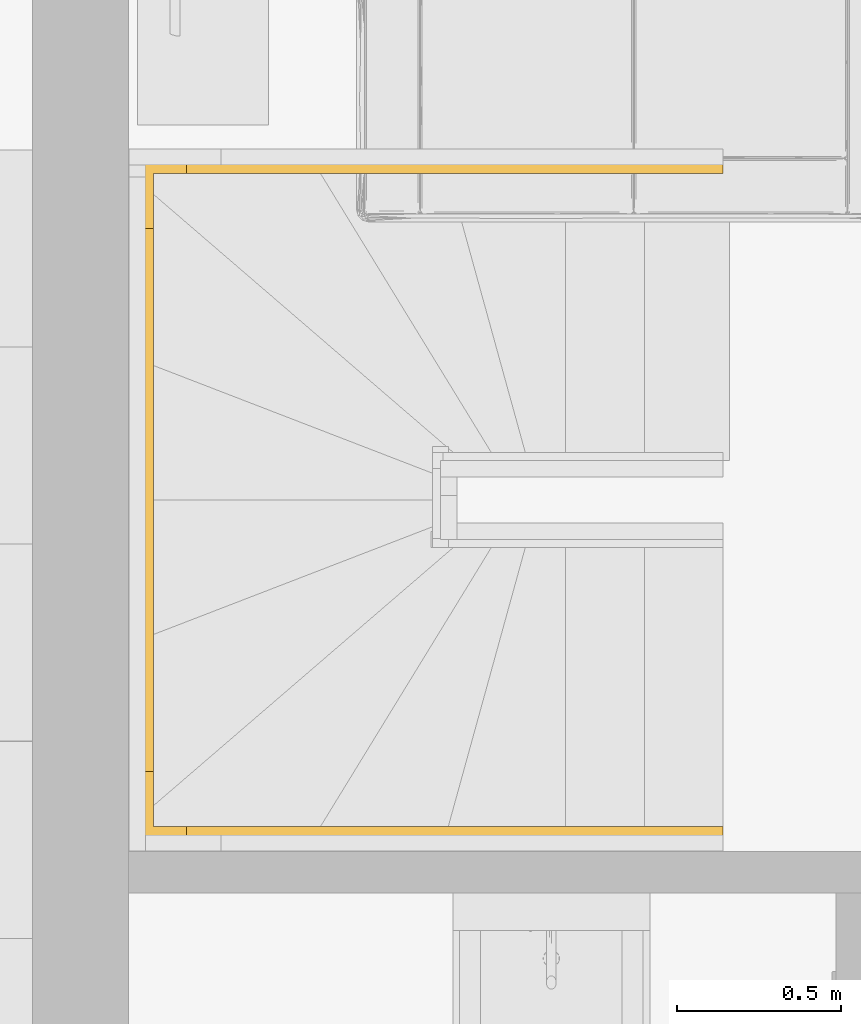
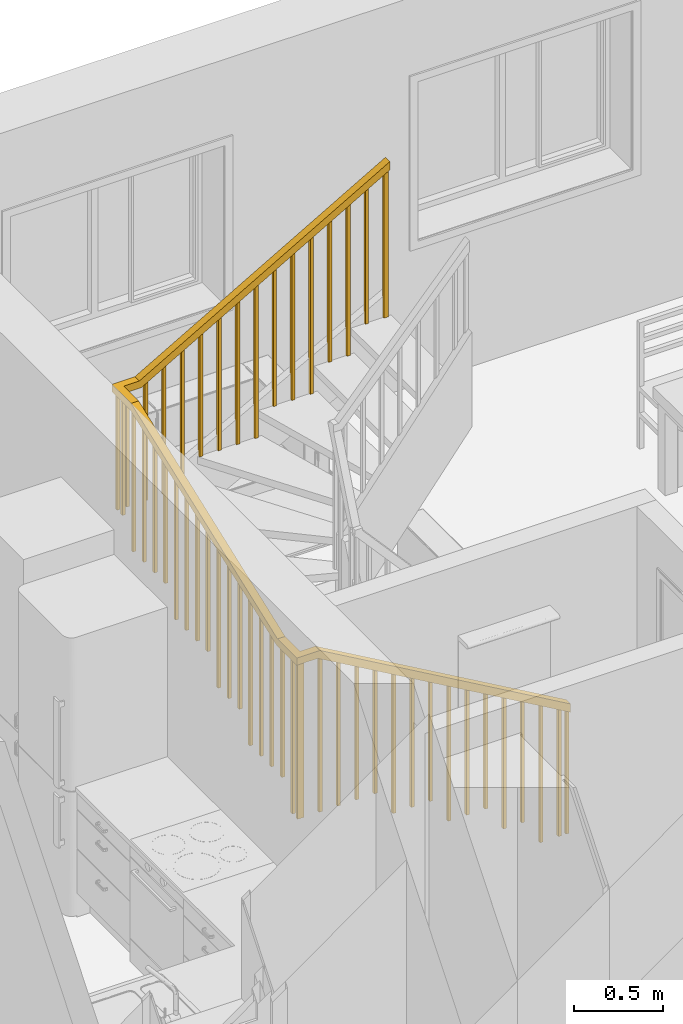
# One storey, part 31 of 65: 1 railing, 1 element without a shape of its own.
"""IFC2X3 building model written with IfcOpenShell, lengths in millimetres."""

from ifc_helpers import new_model, entity, si_unit, converted_unit, direction, frame, origin, place, context, subcontext, project, spatial, faceted_brep, material, type_object, element, aggregate, save


model = new_model("IFC2X3")

# Units and contexts
model_context = context("Model", 3, precision=0.01, world=origin(), true_north=direction((0.0, 1.0)))
body_context = subcontext(model_context, "Body", "Model", "MODEL_VIEW")
ifc_project = project(units=[si_unit("LENGTHUNIT", "METRE", prefix="MILLI"), si_unit("AREAUNIT", "SQUARE_METRE"), si_unit("VOLUMEUNIT", "CUBIC_METRE"), converted_unit("PLANEANGLEUNIT", "DEGREE", entity("IfcPlaneAngleMeasure", 0.017453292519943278), si_unit("PLANEANGLEUNIT", "RADIAN"), dimensions=[0, 0, 0, 0, 0, 0, 0])], contexts=[model_context])

# Site, building, storey
site_placement = place(None, origin())
site = spatial("IfcSite", under=ifc_project, at=site_placement, Name="Default", CompositionType="ELEMENT")
building_placement = place(site_placement, origin())
building = spatial("IfcBuilding", under=site, at=building_placement, CompositionType="ELEMENT")
storey_placement = place(building_placement, origin())
storey = spatial("IfcBuildingStorey", under=building, at=storey_placement, Name="Et. 1", CompositionType="ELEMENT", Elevation=0.0)

# Stair, railing
type_product = type_object("IfcTypeProduct", Name="Assembled Stair:Tretrapp - Åpne trinn m/ vanger")
stair_placement = place(storey_placement, origin())
stair = element("IfcStair", 1, at=stair_placement, inside=storey, type_object=type_product, Name="Assembled Stair:Stair", ShapeType="NOTDEFINED")
ifc_material = material(Name="Metall - Malt - MØRK GRÅ MATT")
railing_type = type_object("IfcRailingType", Name="Railing:900mm", PredefinedType="NOTDEFINED")
railing_placement = place(stair_placement, frame((28350.268455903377, 11245.551787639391, 178.73333333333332)))
railing = element("IfcRailing", 2, at=railing_placement, type_object=railing_type, material=ifc_material, Name="Railing:900mm", PredefinedType="NOTDEFINED", context=body_context, shape_type="Brep", body=[
    faceted_brep([(1755.0, 2054.199999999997, 3334.94499683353), (1755.0, 2074.199999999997, 3334.94499683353), (1755.0, 2074.199999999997, 2323.5333333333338), (1755.0, 2054.199999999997, 2323.5333333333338), (1775.0, 2074.199999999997, 3346.4569725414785), (1775.0, 2074.199999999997, 2323.5333333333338), (1775.0, 2054.199999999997, 3346.4569725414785), (1775.0, 2054.199999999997, 2323.5333333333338)], [[[0, 1, 2, 3]], [[1, 4, 5, 2]], [[4, 6, 7, 5]], [[3, 7, 6, 0]], [[0, 6, 4, 1]], [[2, 5, 7, 3]]]),
    faceted_brep([(1635.0, 2054.199999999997, 3265.8731425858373), (1635.0, 2074.199999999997, 3265.8731425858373), (1635.0, 2074.199999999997, 2323.5333333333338), (1635.0, 2054.199999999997, 2323.5333333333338), (1655.0, 2074.199999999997, 3277.385118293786), (1655.0, 2074.199999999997, 2323.5333333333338), (1655.0, 2054.199999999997, 3277.385118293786), (1655.0, 2054.199999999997, 2323.5333333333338)], [[[0, 1, 2, 3]], [[1, 4, 5, 2]], [[4, 6, 7, 5]], [[3, 7, 6, 0]], [[0, 6, 4, 1]], [[2, 5, 7, 3]]]),
    faceted_brep([(1515.0, 2054.199999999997, 3196.801288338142), (1515.0, 2074.199999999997, 3196.8012883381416), (1515.0, 2074.199999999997, 2144.8), (1515.0, 2054.199999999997, 2144.8000000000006), (1535.0, 2074.199999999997, 3208.313264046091), (1535.0, 2074.199999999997, 2144.8), (1535.0, 2054.199999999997, 3208.313264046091), (1535.0, 2054.199999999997, 2144.8)], [[[0, 1, 2, 3]], [[1, 4, 5, 2]], [[4, 6, 7, 5]], [[3, 7, 6, 0]], [[0, 6, 4, 1]], [[2, 5, 7, 3]]]),
    faceted_brep([(1395.0, 2054.199999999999, 3127.72943409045), (1395.0, 2074.199999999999, 3127.72943409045), (1395.0, 2074.199999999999, 2144.8000000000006), (1395.0, 2054.199999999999, 2144.8000000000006), (1415.0, 2074.199999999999, 3139.241409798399), (1415.0, 2074.199999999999, 2144.8000000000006), (1415.0, 2054.199999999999, 3139.241409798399), (1415.0, 2054.199999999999, 2144.8000000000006)], [[[0, 1, 2, 3]], [[1, 4, 5, 2]], [[4, 6, 7, 5]], [[3, 7, 6, 0]], [[0, 6, 4, 1]], [[2, 5, 7, 3]]]),
    faceted_brep([(1275.0, 2054.199999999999, 3058.6575798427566), (1275.0, 2074.199999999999, 3058.6575798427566), (1275.0, 2074.199999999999, 1966.0666666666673), (1275.0, 2054.199999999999, 1966.0666666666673), (1295.0, 2074.199999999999, 3070.169555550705), (1295.0, 2074.199999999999, 1966.0666666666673), (1295.0, 2054.199999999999, 3070.169555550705), (1295.0, 2054.199999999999, 1966.0666666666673)], [[[0, 1, 2, 3]], [[1, 4, 5, 2]], [[4, 6, 7, 5]], [[3, 7, 6, 0]], [[0, 6, 4, 1]], [[2, 5, 7, 3]]]),
    faceted_brep([(1155.0, 2054.199999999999, 2989.585725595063), (1155.0, 2074.199999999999, 2989.585725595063), (1155.0, 2074.199999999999, 1966.0666666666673), (1155.0, 2054.199999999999, 1966.0666666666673), (1175.0, 2074.199999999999, 3001.097701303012), (1175.0, 2074.199999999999, 1966.0666666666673), (1175.0, 2054.199999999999, 3001.097701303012), (1175.0, 2054.199999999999, 1966.0666666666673)], [[[0, 1, 2, 3]], [[1, 4, 5, 2]], [[4, 6, 7, 5]], [[3, 7, 6, 0]], [[0, 6, 4, 1]], [[2, 5, 7, 3]]]),
    faceted_brep([(1035.0, 2054.199999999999, 2920.5138713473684), (1035.0, 2074.199999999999, 2920.5138713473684), (1035.0, 2074.199999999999, 1966.0666666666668), (1035.0, 2054.199999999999, 1966.0666666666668), (1055.0, 2074.199999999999, 2932.0258470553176), (1055.0, 2074.199999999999, 1966.0666666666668), (1055.0, 2054.199999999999, 2932.0258470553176), (1055.0, 2054.199999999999, 1966.0666666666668)], [[[0, 1, 2, 3]], [[1, 4, 5, 2]], [[4, 6, 7, 5]], [[3, 7, 6, 0]], [[0, 6, 4, 1]], [[2, 5, 7, 3]]]),
    faceted_brep([(915.0, 2054.199999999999, 2851.4420170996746), (915.0, 2074.199999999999, 2851.4420170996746), (915.0, 2074.199999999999, 1787.3333333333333), (915.0, 2054.199999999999, 1787.3333333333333), (935.0, 2074.199999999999, 2862.953992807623), (935.0, 2074.199999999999, 1787.3333333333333), (935.0, 2054.199999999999, 2862.953992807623), (935.0, 2054.199999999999, 1787.3333333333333)], [[[0, 1, 2, 3]], [[1, 4, 5, 2]], [[4, 6, 7, 5]], [[3, 7, 6, 0]], [[0, 6, 4, 1]], [[2, 5, 7, 3]]]),
    faceted_brep([(795.0, 2054.2000000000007, 2782.3701628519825), (795.0, 2074.2000000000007, 2782.3701628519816), (795.0, 2074.2000000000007, 1787.333333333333), (795.0, 2054.2000000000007, 1787.333333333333), (815.0, 2074.2000000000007, 2793.882138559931), (815.0, 2074.2000000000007, 1787.333333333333), (815.0, 2054.2000000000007, 2793.882138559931), (815.0, 2054.2000000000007, 1787.333333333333)], [[[0, 1, 2, 3]], [[1, 4, 5, 2]], [[4, 6, 7, 5]], [[3, 7, 6, 0]], [[0, 6, 4, 1]], [[2, 5, 7, 3]]]),
    faceted_brep([(675.0, 2054.2000000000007, 2713.2983086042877), (675.0, 2074.2000000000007, 2713.2983086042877), (675.0, 2074.2000000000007, 1787.333333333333), (675.0, 2054.2000000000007, 1787.333333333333), (695.0, 2074.2000000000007, 2724.810284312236), (695.0, 2074.2000000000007, 1787.333333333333), (695.0, 2054.2000000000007, 2724.810284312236), (695.0, 2054.2000000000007, 1787.333333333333)], [[[0, 1, 2, 3]], [[1, 4, 5, 2]], [[4, 6, 7, 5]], [[3, 7, 6, 0]], [[0, 6, 4, 1]], [[2, 5, 7, 3]]]),
    faceted_brep([(555.0, 2054.2000000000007, 2644.226454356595), (555.0, 2074.2000000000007, 2644.2264543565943), (555.0, 2074.2000000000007, 1787.3333333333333), (555.0, 2054.2000000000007, 1787.3333333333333), (575.0, 2074.2000000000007, 2655.7384300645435), (575.0, 2074.2000000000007, 1787.3333333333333), (575.0, 2054.2000000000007, 2655.7384300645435), (575.0, 2054.2000000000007, 1787.3333333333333)], [[[0, 1, 2, 3]], [[1, 4, 5, 2]], [[4, 6, 7, 5]], [[3, 7, 6, 0]], [[0, 6, 4, 1]], [[2, 5, 7, 3]]]),
    faceted_brep([(435.0, 2054.2000000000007, 2575.1546001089), (435.0, 2074.2000000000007, 2575.1546001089), (435.0, 2074.2000000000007, 1608.5999999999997), (435.0, 2054.2000000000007, 1608.5999999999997), (455.0, 2074.2000000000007, 2586.666575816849), (455.0, 2074.2000000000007, 1608.5999999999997), (455.0, 2054.2000000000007, 2586.666575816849), (455.0, 2054.2000000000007, 1608.5999999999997)], [[[0, 1, 2, 3]], [[1, 4, 5, 2]], [[4, 6, 7, 5]], [[3, 7, 6, 0]], [[0, 6, 4, 1]], [[2, 5, 7, 3]]]),
    faceted_brep([(315.0, 2054.2000000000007, 2506.082745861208), (315.0, 2074.2000000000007, 2506.0827458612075), (315.0, 2074.2000000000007, 1608.5999999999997), (315.0, 2054.2000000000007, 1608.5999999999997), (335.0, 2074.2000000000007, 2517.5947215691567), (335.0, 2074.2000000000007, 1608.5999999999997), (335.0, 2054.2000000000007, 2517.5947215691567), (335.0, 2054.2000000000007, 1608.5999999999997)], [[[0, 1, 2, 3]], [[1, 4, 5, 2]], [[4, 6, 7, 5]], [[3, 7, 6, 0]], [[0, 6, 4, 1]], [[2, 5, 7, 3]]]),
    faceted_brep([(195.0, 2054.2000000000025, 2437.0108916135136), (195.0, 2074.2000000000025, 2437.0108916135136), (195.0, 2074.2000000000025, 1608.5999999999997), (195.0, 2054.2000000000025, 1608.5999999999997), (215.0, 2074.2000000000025, 2448.522867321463), (215.0, 2074.2000000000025, 1608.5999999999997), (215.0, 2054.2000000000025, 2448.522867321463), (215.0, 2054.2000000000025, 1608.5999999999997)], [[[0, 1, 2, 3]], [[1, 4, 5, 2]], [[4, 6, 7, 5]], [[3, 7, 6, 0]], [[0, 6, 4, 1]], [[2, 5, 7, 3]]]),
    faceted_brep([(75.0, 2054.2000000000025, 2411.399065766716), (75.0, 2074.2000000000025, 2411.399065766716), (75.0, 2074.2000000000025, 1608.5999999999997), (75.0, 2054.2000000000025, 1608.5999999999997), (95.0, 2074.2000000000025, 2411.399065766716), (95.0, 2074.2000000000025, 1608.5999999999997), (95.0, 2054.2000000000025, 2411.399065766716), (95.0, 2054.2000000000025, 1608.5999999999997)], [[[0, 1, 2, 3]], [[1, 4, 5, 2]], [[4, 6, 7, 5]], [[3, 7, 6, 0]], [[0, 6, 4, 1]], [[2, 5, 7, 3]]]),
    faceted_brep([(35.0, 1995.0, 2411.399065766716), (15.0, 1995.0, 2411.399065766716), (15.0, 1995.0, 1608.5999999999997), (35.0, 1995.0, 1608.5999999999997), (15.0, 2015.0, 2411.399065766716), (15.0, 2015.0, 1608.5999999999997), (35.0, 2015.0, 2411.399065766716), (35.0, 2015.0, 1608.5999999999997)], [[[0, 1, 2, 3]], [[1, 4, 5, 2]], [[4, 6, 7, 5]], [[3, 7, 6, 0]], [[0, 6, 4, 1]], [[2, 5, 7, 3]]]),
    faceted_brep([(35.0, 1875.0, 2411.399065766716), (15.0, 1875.0, 2411.399065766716), (15.0, 1875.0, 1429.866666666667), (35.0, 1875.0, 1429.866666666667), (15.0, 1895.0, 2411.399065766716), (15.0, 1895.0, 1429.866666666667), (35.0, 1895.0, 2411.399065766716), (35.0, 1895.0, 1429.866666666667)], [[[0, 1, 2, 3]], [[1, 4, 5, 2]], [[4, 6, 7, 5]], [[3, 7, 6, 0]], [[0, 6, 4, 1]], [[2, 5, 7, 3]]]),
    faceted_brep([(35.0, 1755.0, 2367.6418164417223), (15.0, 1755.0, 2367.6418164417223), (15.0, 1755.0, 1429.8666666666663), (35.0, 1755.0, 1429.8666666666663), (15.0, 1775.0, 2375.144870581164), (15.0, 1775.0, 1429.8666666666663), (35.0, 1775.0, 2375.144870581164), (35.0, 1775.0, 1429.8666666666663)], [[[0, 1, 2, 3]], [[1, 4, 5, 2]], [[4, 6, 7, 5]], [[3, 7, 6, 0]], [[0, 6, 4, 1]], [[2, 5, 7, 3]]]),
    faceted_brep([(35.0, 1635.0, 2322.6234916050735), (15.0, 1635.0, 2322.6234916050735), (15.0, 1635.0, 1429.866666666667), (35.0, 1635.0, 1429.866666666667), (15.0, 1655.0, 2330.126545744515), (15.0, 1655.0, 1429.866666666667), (35.0, 1655.0, 2330.126545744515), (35.0, 1655.0, 1429.866666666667)], [[[0, 1, 2, 3]], [[1, 4, 5, 2]], [[4, 6, 7, 5]], [[3, 7, 6, 0]], [[0, 6, 4, 1]], [[2, 5, 7, 3]]]),
    faceted_brep([(35.0, 1515.0, 2277.605166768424), (15.0, 1515.0, 2277.605166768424), (15.0, 1515.0, 1429.8666666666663), (35.0, 1515.0, 1429.8666666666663), (15.0, 1535.0, 2285.1082209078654), (15.0, 1535.0, 1429.8666666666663), (35.0, 1535.0, 2285.1082209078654), (35.0, 1535.0, 1429.8666666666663)], [[[0, 1, 2, 3]], [[1, 4, 5, 2]], [[4, 6, 7, 5]], [[3, 7, 6, 0]], [[0, 6, 4, 1]], [[2, 5, 7, 3]]]),
    faceted_brep([(35.0, 1395.0, 2232.5868419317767), (15.0, 1395.0, 2232.5868419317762), (15.0, 1395.0, 1251.1333333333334), (35.0, 1395.0, 1251.1333333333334), (15.0, 1415.0, 2240.089896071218), (15.0, 1415.0, 1251.1333333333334), (35.0, 1415.0, 2240.089896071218), (35.0, 1415.0, 1251.1333333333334)], [[[0, 1, 2, 3]], [[1, 4, 5, 2]], [[4, 6, 7, 5]], [[3, 7, 6, 0]], [[0, 6, 4, 1]], [[2, 5, 7, 3]]]),
    faceted_brep([(35.0, 1275.0, 2187.5685170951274), (15.0, 1275.0, 2187.5685170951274), (15.0, 1275.0, 1251.1333333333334), (35.0, 1275.0, 1251.1333333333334), (15.0, 1295.0, 2195.071571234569), (15.0, 1295.0, 1251.1333333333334), (35.0, 1295.0, 2195.071571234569), (35.0, 1295.0, 1251.1333333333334)], [[[0, 1, 2, 3]], [[1, 4, 5, 2]], [[4, 6, 7, 5]], [[3, 7, 6, 0]], [[0, 6, 4, 1]], [[2, 5, 7, 3]]]),
    faceted_brep([(35.0, 1155.0, 2142.5501922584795), (15.0, 1155.0, 2142.550192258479), (15.0, 1155.0, 1251.1333333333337), (35.0, 1155.0, 1251.1333333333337), (15.0, 1175.0, 2150.0532463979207), (15.0, 1175.0, 1251.1333333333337), (35.0, 1175.0, 2150.0532463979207), (35.0, 1175.0, 1251.1333333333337)], [[[0, 1, 2, 3]], [[1, 4, 5, 2]], [[4, 6, 7, 5]], [[3, 7, 6, 0]], [[0, 6, 4, 1]], [[2, 5, 7, 3]]]),
    faceted_brep([(35.0, 1035.0, 2097.53186742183), (15.0, 1035.0, 2097.53186742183), (15.0, 1035.0, 1251.1333333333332), (35.0, 1035.0, 1251.1333333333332), (15.0, 1055.0, 2105.034921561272), (15.0, 1055.0, 1251.1333333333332), (35.0, 1055.0, 2105.034921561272), (35.0, 1055.0, 1251.1333333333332)], [[[0, 1, 2, 3]], [[1, 4, 5, 2]], [[4, 6, 7, 5]], [[3, 7, 6, 0]], [[0, 6, 4, 1]], [[2, 5, 7, 3]]]),
    faceted_brep([(35.0, 915.0, 2052.5135425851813), (15.0, 915.0, 2052.5135425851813), (15.0, 915.0, 1072.3999999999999), (35.0, 915.0, 1072.3999999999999), (15.0, 935.0, 2060.0165967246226), (15.0, 935.0, 1072.3999999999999), (35.0, 935.0, 2060.0165967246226), (35.0, 935.0, 1072.3999999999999)], [[[0, 1, 2, 3]], [[1, 4, 5, 2]], [[4, 6, 7, 5]], [[3, 7, 6, 0]], [[0, 6, 4, 1]], [[2, 5, 7, 3]]]),
    faceted_brep([(35.0, 795.0, 2007.4952177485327), (15.0, 795.0, 2007.4952177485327), (15.0, 795.0, 1072.4), (35.0, 795.0, 1072.4), (15.0, 815.0, 2014.998271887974), (15.0, 815.0, 1072.4), (35.0, 815.0, 2014.998271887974), (35.0, 815.0, 1072.4)], [[[0, 1, 2, 3]], [[1, 4, 5, 2]], [[4, 6, 7, 5]], [[3, 7, 6, 0]], [[0, 6, 4, 1]], [[2, 5, 7, 3]]]),
    faceted_brep([(35.0, 675.0, 1962.4768929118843), (15.0, 675.0, 1962.4768929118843), (15.0, 675.0, 1072.4), (35.0, 675.0, 1072.4), (15.0, 695.0, 1969.9799470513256), (15.0, 695.0, 1072.4), (35.0, 695.0, 1969.9799470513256), (35.0, 695.0, 1072.4)], [[[0, 1, 2, 3]], [[1, 4, 5, 2]], [[4, 6, 7, 5]], [[3, 7, 6, 0]], [[0, 6, 4, 1]], [[2, 5, 7, 3]]]),
    faceted_brep([(35.0, 555.0, 1917.4585680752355), (15.0, 555.0, 1917.4585680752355), (15.0, 555.0, 893.6666666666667), (35.0, 555.0, 893.6666666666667), (15.0, 575.0, 1924.9616222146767), (15.0, 575.0, 893.6666666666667), (35.0, 575.0, 1924.9616222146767), (35.0, 575.0, 893.6666666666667)], [[[0, 1, 2, 3]], [[1, 4, 5, 2]], [[4, 6, 7, 5]], [[3, 7, 6, 0]], [[0, 6, 4, 1]], [[2, 5, 7, 3]]]),
    faceted_brep([(35.0, 435.0, 1872.4402432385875), (15.0, 435.0, 1872.4402432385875), (15.0, 435.0, 893.666666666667), (35.0, 435.0, 893.666666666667), (15.0, 455.0, 1879.9432973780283), (15.0, 455.0, 893.666666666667), (35.0, 455.0, 1879.9432973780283), (35.0, 455.0, 893.666666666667)], [[[0, 1, 2, 3]], [[1, 4, 5, 2]], [[4, 6, 7, 5]], [[3, 7, 6, 0]], [[0, 6, 4, 1]], [[2, 5, 7, 3]]]),
    faceted_brep([(35.0, 315.0, 1827.4219184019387), (15.0, 315.0, 1827.4219184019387), (15.0, 315.0, 893.6666666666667), (35.0, 315.0, 893.6666666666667), (15.0, 335.0, 1834.92497254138), (15.0, 335.0, 893.6666666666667), (35.0, 335.0, 1834.92497254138), (35.0, 335.0, 893.6666666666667)], [[[0, 1, 2, 3]], [[1, 4, 5, 2]], [[4, 6, 7, 5]], [[3, 7, 6, 0]], [[0, 6, 4, 1]], [[2, 5, 7, 3]]]),
    faceted_brep([(35.0, 195.0, 1790.8676010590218), (15.0, 195.0, 1790.867601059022), (15.0, 195.0, 893.6666666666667), (35.0, 195.0, 893.6666666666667), (15.0, 215.0, 1790.867601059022), (15.0, 215.0, 893.6666666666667), (35.0, 215.0, 1790.867601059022), (35.0, 215.0, 893.6666666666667)], [[[0, 1, 2, 3]], [[1, 4, 5, 2]], [[4, 6, 7, 5]], [[3, 7, 6, 0]], [[0, 6, 4, 1]], [[2, 5, 7, 3]]]),
    faceted_brep([(35.0, 75.0, 1790.8676010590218), (15.0, 75.0, 1790.8676010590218), (15.0, 75.0, 714.9333333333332), (35.0, 75.0, 714.9333333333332), (15.0, 95.0, 1790.8676010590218), (15.0, 95.0, 714.9333333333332), (35.0, 95.0, 1790.8676010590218), (35.0, 95.0, 714.9333333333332)], [[[0, 1, 2, 3]], [[1, 4, 5, 2]], [[4, 6, 7, 5]], [[3, 7, 6, 0]], [[0, 6, 4, 1]], [[2, 5, 7, 3]]]),
    faceted_brep([(55.093305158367, 35.0, 1790.8676010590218), (55.093305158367, 15.0, 1790.8676010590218), (55.093305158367, 15.0, 714.9333333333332), (55.093305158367, 35.0, 714.9333333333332), (35.093305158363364, 15.0, 1790.8676010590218), (35.093305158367, 15.0, 714.9333333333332), (35.093305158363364, 35.0, 1790.8676010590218), (35.093305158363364, 35.0, 714.9333333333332)], [[[0, 1, 2, 3]], [[1, 4, 5, 2]], [[4, 6, 7, 5]], [[3, 7, 6, 0]], [[0, 6, 4, 1]], [[2, 5, 7, 3]]]),
    faceted_brep([(175.09330515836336, 35.0, 1776.7140445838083), (175.09330515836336, 15.0, 1776.7140445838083), (175.09330515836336, 15.0, 714.9333333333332), (175.09330515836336, 35.0, 714.9333333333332), (155.09330515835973, 15.0, 1788.2260202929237), (155.09330515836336, 15.0, 714.9333333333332), (155.09330515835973, 35.0, 1788.2260202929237), (155.09330515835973, 35.0, 714.9333333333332)], [[[0, 1, 2, 3]], [[1, 4, 5, 2]], [[4, 6, 7, 5]], [[3, 7, 6, 0]], [[0, 6, 4, 1]], [[2, 5, 7, 3]]]),
    faceted_brep([(295.09330515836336, 35.0, 1707.642190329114), (295.09330515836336, 15.0, 1707.642190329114), (295.09330515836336, 15.0, 714.9333333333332), (295.09330515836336, 35.0, 714.9333333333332), (275.0933051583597, 15.0, 1719.15416603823), (275.09330515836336, 15.0, 714.9333333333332), (275.0933051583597, 35.0, 1719.15416603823), (275.0933051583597, 35.0, 714.9333333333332)], [[[0, 1, 2, 3]], [[1, 4, 5, 2]], [[4, 6, 7, 5]], [[3, 7, 6, 0]], [[0, 6, 4, 1]], [[2, 5, 7, 3]]]),
    faceted_brep([(415.093305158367, 35.0, 1638.5703360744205), (415.093305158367, 15.0, 1638.5703360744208), (415.093305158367, 15.0, 714.9333333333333), (415.093305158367, 35.0, 714.9333333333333), (395.09330515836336, 15.0, 1650.0823117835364), (395.093305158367, 15.0, 714.9333333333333), (395.09330515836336, 35.0, 1650.0823117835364), (395.09330515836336, 35.0, 714.9333333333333)], [[[0, 1, 2, 3]], [[1, 4, 5, 2]], [[4, 6, 7, 5]], [[3, 7, 6, 0]], [[0, 6, 4, 1]], [[2, 5, 7, 3]]]),
    faceted_brep([(535.0933051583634, 35.0, 1569.4984818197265), (535.0933051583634, 15.0, 1569.4984818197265), (535.0933051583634, 15.0, 714.9333333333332), (535.0933051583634, 35.0, 714.9333333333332), (515.0933051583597, 15.0, 1581.010457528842), (515.0933051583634, 15.0, 714.9333333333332), (515.0933051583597, 35.0, 1581.010457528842), (515.0933051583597, 35.0, 714.9333333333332)], [[[0, 1, 2, 3]], [[1, 4, 5, 2]], [[4, 6, 7, 5]], [[3, 7, 6, 0]], [[0, 6, 4, 1]], [[2, 5, 7, 3]]]),
    faceted_brep([(655.0933051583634, 35.0, 1500.4266275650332), (655.0933051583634, 15.0, 1500.426627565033), (655.0933051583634, 15.0, 536.1999999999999), (655.0933051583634, 35.0, 536.1999999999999), (635.0933051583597, 15.0, 1511.9386032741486), (635.0933051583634, 15.0, 536.1999999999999), (635.0933051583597, 35.0, 1511.9386032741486), (635.0933051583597, 35.0, 536.1999999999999)], [[[0, 1, 2, 3]], [[1, 4, 5, 2]], [[4, 6, 7, 5]], [[3, 7, 6, 0]], [[0, 6, 4, 1]], [[2, 5, 7, 3]]]),
    faceted_brep([(775.0933051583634, 35.0, 1431.3547733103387), (775.0933051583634, 15.0, 1431.3547733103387), (775.0933051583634, 15.0, 536.2), (775.0933051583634, 35.0, 536.2), (755.0933051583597, 15.0, 1442.8667490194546), (755.0933051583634, 15.0, 536.2), (755.0933051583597, 35.0, 1442.8667490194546), (755.0933051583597, 35.0, 536.2)], [[[0, 1, 2, 3]], [[1, 4, 5, 2]], [[4, 6, 7, 5]], [[3, 7, 6, 0]], [[0, 6, 4, 1]], [[2, 5, 7, 3]]]),
    faceted_brep([(895.093305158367, 35.0, 1362.2829190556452), (895.093305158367, 15.0, 1362.282919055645), (895.093305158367, 15.0, 536.1999999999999), (895.093305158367, 35.0, 536.1999999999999), (875.0933051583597, 15.0, 1373.7948947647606), (875.093305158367, 15.0, 536.1999999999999), (875.0933051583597, 35.0, 1373.7948947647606), (875.0933051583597, 35.0, 536.1999999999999)], [[[0, 1, 2, 3]], [[1, 4, 5, 2]], [[4, 6, 7, 5]], [[3, 7, 6, 0]], [[0, 6, 4, 1]], [[2, 5, 7, 3]]]),
    faceted_brep([(1015.0933051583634, 35.0, 1293.2110648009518), (1015.0933051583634, 15.0, 1293.2110648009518), (1015.0933051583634, 15.0, 357.4666666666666), (1015.0933051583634, 35.0, 357.4666666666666), (995.0933051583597, 15.0, 1304.7230405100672), (995.0933051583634, 15.0, 357.4666666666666), (995.0933051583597, 35.0, 1304.7230405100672), (995.0933051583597, 35.0, 357.4666666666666)], [[[0, 1, 2, 3]], [[1, 4, 5, 2]], [[4, 6, 7, 5]], [[3, 7, 6, 0]], [[0, 6, 4, 1]], [[2, 5, 7, 3]]]),
    faceted_brep([(1135.0933051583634, 35.0, 1224.1392105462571), (1135.0933051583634, 15.0, 1224.139210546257), (1135.0933051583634, 15.0, 357.4666666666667), (1135.0933051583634, 35.0, 357.4666666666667), (1115.0933051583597, 15.0, 1235.6511862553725), (1115.0933051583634, 15.0, 357.4666666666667), (1115.0933051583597, 35.0, 1235.6511862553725), (1115.0933051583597, 35.0, 357.4666666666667)], [[[0, 1, 2, 3]], [[1, 4, 5, 2]], [[4, 6, 7, 5]], [[3, 7, 6, 0]], [[0, 6, 4, 1]], [[2, 5, 7, 3]]]),
    faceted_brep([(1255.093305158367, 35.0, 1155.0673562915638), (1255.093305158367, 15.0, 1155.067356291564), (1255.093305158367, 15.0, 357.4666666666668), (1255.093305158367, 35.0, 357.4666666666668), (1235.0933051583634, 15.0, 1166.5793320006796), (1235.093305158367, 15.0, 357.4666666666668), (1235.0933051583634, 35.0, 1166.5793320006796), (1235.0933051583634, 35.0, 357.4666666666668)], [[[0, 1, 2, 3]], [[1, 4, 5, 2]], [[4, 6, 7, 5]], [[3, 7, 6, 0]], [[0, 6, 4, 1]], [[2, 5, 7, 3]]]),
    faceted_brep([(1375.0933051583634, 35.0, 1085.99550203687), (1375.0933051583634, 15.0, 1085.99550203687), (1375.0933051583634, 15.0, 178.73333333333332), (1375.0933051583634, 35.0, 178.73333333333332), (1355.0933051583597, 15.0, 1097.5074777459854), (1355.0933051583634, 15.0, 178.73333333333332), (1355.0933051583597, 35.0, 1097.5074777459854), (1355.0933051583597, 35.0, 178.73333333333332)], [[[0, 1, 2, 3]], [[1, 4, 5, 2]], [[4, 6, 7, 5]], [[3, 7, 6, 0]], [[0, 6, 4, 1]], [[2, 5, 7, 3]]]),
    faceted_brep([(1495.0933051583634, 35.0, 1016.9236477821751), (1495.0933051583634, 15.0, 1016.9236477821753), (1495.0933051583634, 15.0, 178.73333333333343), (1495.0933051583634, 35.0, 178.73333333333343), (1475.0933051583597, 15.0, 1028.435623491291), (1475.0933051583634, 15.0, 178.73333333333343), (1475.0933051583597, 35.0, 1028.435623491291), (1475.0933051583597, 35.0, 178.73333333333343)], [[[0, 1, 2, 3]], [[1, 4, 5, 2]], [[4, 6, 7, 5]], [[3, 7, 6, 0]], [[0, 6, 4, 1]], [[2, 5, 7, 3]]]),
    faceted_brep([(1615.093305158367, 35.0, 947.8517935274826), (1615.093305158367, 15.0, 947.8517935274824), (1615.093305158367, 15.0, 0.0), (1615.093305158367, 35.0, 0.0), (1595.0933051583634, 15.0, 959.363769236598), (1595.093305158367, 15.0, 0.0), (1595.0933051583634, 35.0, 959.363769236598), (1595.0933051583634, 35.0, 0.0)], [[[0, 1, 2, 3]], [[1, 4, 5, 2]], [[4, 6, 7, 5]], [[3, 7, 6, 0]], [[0, 6, 4, 1]], [[2, 5, 7, 3]]]),
    faceted_brep([(1735.0933051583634, 35.0, 878.7799392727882), (1735.0933051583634, 15.0, 878.7799392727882), (1735.0933051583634, 15.0, 0.0), (1735.0933051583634, 35.0, 0.0), (1715.0933051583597, 15.0, 890.2919149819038), (1715.0933051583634, 15.0, 0.0), (1715.0933051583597, 35.0, 890.2919149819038), (1715.0933051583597, 35.0, 0.0)], [[[0, 1, 2, 3]], [[1, 4, 5, 2]], [[4, 6, 7, 5]], [[3, 7, 6, 0]], [[0, 6, 4, 1]], [[2, 5, 7, 3]]]),
    faceted_brep([(35.0, 2054.2000000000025, 2411.399065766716), (15.0, 2054.2000000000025, 2411.399065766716), (15.0, 2054.2000000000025, 1608.5999999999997), (35.0, 2054.2000000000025, 1608.5999999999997), (15.0, 2074.2000000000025, 2411.399065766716), (15.0, 2074.2000000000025, 1608.5999999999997), (35.0, 2074.2000000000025, 2411.399065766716), (35.0, 2074.2000000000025, 1608.5999999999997)], [[[0, 1, 2, 3]], [[1, 4, 5, 2]], [[4, 6, 7, 5]], [[3, 7, 6, 0]], [[0, 6, 4, 1]], [[2, 5, 7, 3]]]),
    faceted_brep([(35.0, 35.0, 1790.8676010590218), (35.0, 15.0, 1790.8676010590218), (35.0, 15.0, 714.9333333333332), (35.0, 35.0, 714.9333333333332), (15.0, 15.0, 1790.8676010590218), (15.0, 15.0, 714.9333333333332), (15.0, 35.0, 1790.8676010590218), (15.0, 35.0, 714.9333333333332)], [[[0, 1, 2, 3]], [[1, 4, 5, 2]], [[4, 6, 7, 5]], [[3, 7, 6, 0]], [[0, 6, 4, 1]], [[2, 5, 7, 3]]]),
    faceted_brep([(1765.09330504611, 2054.199999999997, 3340.7546909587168), (1765.09330504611, 2074.199999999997, 3340.7546909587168), (1765.09330504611, 2074.199999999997, 2323.5333333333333), (1765.09330504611, 2054.199999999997, 2323.5333333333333), (1785.0933050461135, 2074.199999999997, 3352.266666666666), (1785.0933050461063, 2074.199999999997, 2323.5333333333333), (1785.0933050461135, 2054.199999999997, 3352.266666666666), (1785.0933050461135, 2054.199999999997, 2323.5333333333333)], [[[0, 1, 2, 3]], [[1, 4, 5, 2]], [[4, 6, 7, 5]], [[3, 7, 6, 0]], [[0, 6, 4, 1]], [[2, 5, 7, 3]]]),
    faceted_brep([(1785.0933051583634, 35.0, 850.0), (1785.0933051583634, 15.0, 850.0), (1785.0933051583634, 15.0, 0.0), (1785.0933051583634, 35.0, 0.0), (1765.0933051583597, 15.0, 861.5119757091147), (1765.0933051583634, 15.0, 0.0), (1765.0933051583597, 35.0, 861.5119757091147), (1765.0933051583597, 35.0, 0.0)], [[[0, 1, 2, 3]], [[1, 4, 5, 2]], [[4, 6, 7, 5]], [[3, 7, 6, 0]], [[0, 6, 4, 1]], [[2, 5, 7, 3]]]),
    faceted_brep([(1785.0933051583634, 0.0, 900.0), (1785.0933051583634, 0.0, 842.3087103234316), (1785.0933051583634, 50.0, 842.3087103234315), (1785.0933051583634, 50.0, 900.0), (150.50403076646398, 0.0, 1840.8676010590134), (137.1417897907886, 0.0, 1790.8676010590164), (137.1417897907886, 50.0, 1790.8676010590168), (150.50403076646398, 50.0, 1840.867601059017), (50.0, 0.0, 1840.867601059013), (50.0, 50.0, 1840.8676010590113), (50.0, 50.0, 1790.8676010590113), (50.0, 0.0, 1790.867601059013)], [[[0, 1, 2, 3]], [[1, 0, 4, 5]], [[2, 1, 5, 6]], [[3, 2, 6, 7]], [[0, 3, 7, 4]], [[8, 9, 10, 11]], [[5, 4, 8, 11]], [[6, 5, 11, 10]], [[7, 6, 10, 9]], [[4, 7, 9, 8]]]),
    faceted_brep([(0.0, 0.0, 1840.8676010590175), (0.0, 0.0, 1790.8676010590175), (50.0, 0.0, 1790.8676010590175), (50.0, 0.0, 1840.8676010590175), (0.0, 217.56149918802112, 1840.8676010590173), (0.0, 226.6316852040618, 1790.8676010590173), (50.0, 226.6316852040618, 1790.8676010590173), (50.0, 217.56149918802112, 1840.8676010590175), (0.0, 1871.638500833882, 2461.399065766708), (0.0, 1880.7086868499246, 2411.3990657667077), (50.0, 1880.7086868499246, 2411.3990657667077), (50.0, 1871.638500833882, 2461.3990657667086), (0.0, 2039.2000000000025, 2461.399065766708), (50.0, 2039.2000000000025, 2461.3990657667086), (50.0, 2039.2000000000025, 2411.3990657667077), (0.0, 2039.2000000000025, 2411.399065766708)], [[[0, 1, 2, 3]], [[1, 0, 4, 5]], [[2, 1, 5, 6]], [[3, 2, 6, 7]], [[0, 3, 7, 4]], [[5, 4, 8, 9]], [[6, 5, 9, 10]], [[7, 6, 10, 11]], [[4, 7, 11, 8]], [[12, 13, 14, 15]], [[9, 8, 12, 15]], [[10, 9, 15, 14]], [[11, 10, 14, 13]], [[8, 11, 13, 12]]]),
    faceted_brep([(0.0, 2089.2000000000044, 2461.399065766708), (0.0, 2089.2000000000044, 2411.399065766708), (0.0, 2039.2000000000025, 2411.399065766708), (0.0, 2039.2000000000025, 2461.399065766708), (150.50403076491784, 2089.2000000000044, 2461.399065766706), (163.86627173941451, 2089.2000000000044, 2411.3990657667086), (163.86627173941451, 2039.2000000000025, 2411.3990657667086), (150.50403076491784, 2039.2000000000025, 2461.399065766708), (1785.0933050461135, 2089.1999999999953, 3402.266666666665), (1785.0933050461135, 2039.1999999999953, 3402.2666666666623), (1785.0933050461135, 2039.199999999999, 3344.5753769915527), (1785.0933050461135, 2089.199999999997, 3344.5753769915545)], [[[0, 1, 2, 3]], [[1, 0, 4, 5]], [[2, 1, 5, 6]], [[3, 2, 6, 7]], [[0, 3, 7, 4]], [[8, 9, 10, 11]], [[5, 4, 8, 11]], [[6, 5, 11, 10]], [[7, 6, 10, 9]], [[4, 7, 9, 8]]]),
])
aggregate(stair, [railing])

save(model, "model.ifc")
